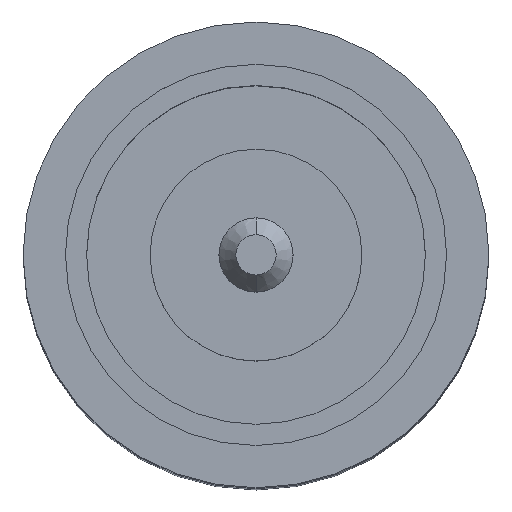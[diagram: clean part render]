
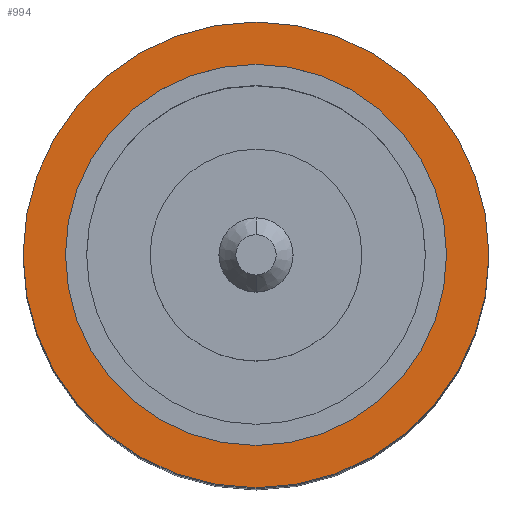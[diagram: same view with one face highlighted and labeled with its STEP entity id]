
A CAD part, top view. The second image highlights one B-rep face of the part: STEP entity #994.
In plain terms, the highlighted planar face has unit normal (0, 0, 1).
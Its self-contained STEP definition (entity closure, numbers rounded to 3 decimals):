
#159=CARTESIAN_POINT('',(0.,0.,-0.05));
#160=DIRECTION('',(0.,0.,-1.));
#161=DIRECTION('',(0.,-1.,0.));
#162=AXIS2_PLACEMENT_3D('',#159,#160,#161);
#167=CARTESIAN_POINT('',(0.,0.,-0.05));
#168=DIRECTION('',(0.,0.,-1.));
#169=DIRECTION('',(-1.,0.,0.));
#170=AXIS2_PLACEMENT_3D('',#167,#168,#169);
#175=CARTESIAN_POINT('',(0.,0.,-0.05));
#176=DIRECTION('',(0.,0.,-1.));
#177=DIRECTION('',(1.,0.,0.));
#178=AXIS2_PLACEMENT_3D('',#175,#176,#177);
#183=CARTESIAN_POINT('',(0.,0.,-0.05));
#184=DIRECTION('',(0.,0.,-1.));
#185=DIRECTION('',(0.,1.,0.));
#186=AXIS2_PLACEMENT_3D('',#183,#184,#185);
#749=CARTESIAN_POINT('',(0.,-4.5,-0.05));
#750=CARTESIAN_POINT('',(0.,4.5,-0.05));
#751=VERTEX_POINT('',#749);
#752=VERTEX_POINT('',#750);
#809=CARTESIAN_POINT('',(-5.5,0.,-0.05));
#810=CARTESIAN_POINT('',(5.5,0.,-0.05));
#811=VERTEX_POINT('',#809);
#812=VERTEX_POINT('',#810);
#978=CARTESIAN_POINT('',(0.,0.,-0.05));
#979=DIRECTION('',(0.,0.,1.));
#980=DIRECTION('',(0.,1.,0.));
#981=AXIS2_PLACEMENT_3D('',#978,#979,#980);
#982=PLANE('',#981);
#984=ORIENTED_EDGE('',*,*,#983,.T.);
#986=ORIENTED_EDGE('',*,*,#985,.T.);
#987=EDGE_LOOP('',(#984,#986));
#988=FACE_OUTER_BOUND('',#987,.F.);
#989=ORIENTED_EDGE('',*,*,#968,.F.);
#991=ORIENTED_EDGE('',*,*,#990,.F.);
#992=EDGE_LOOP('',(#989,#991));
#993=FACE_BOUND('',#992,.F.);
#163=CIRCLE('',#162,4.5);
#171=CIRCLE('',#170,5.5);
#179=CIRCLE('',#178,5.5);
#187=CIRCLE('',#186,4.5);
#968=EDGE_CURVE('',#751,#752,#163,.T.);
#983=EDGE_CURVE('',#811,#812,#171,.T.);
#985=EDGE_CURVE('',#812,#811,#179,.T.);
#990=EDGE_CURVE('',#752,#751,#187,.T.);
#994=ADVANCED_FACE('',(#988,#993),#982,.T.);
